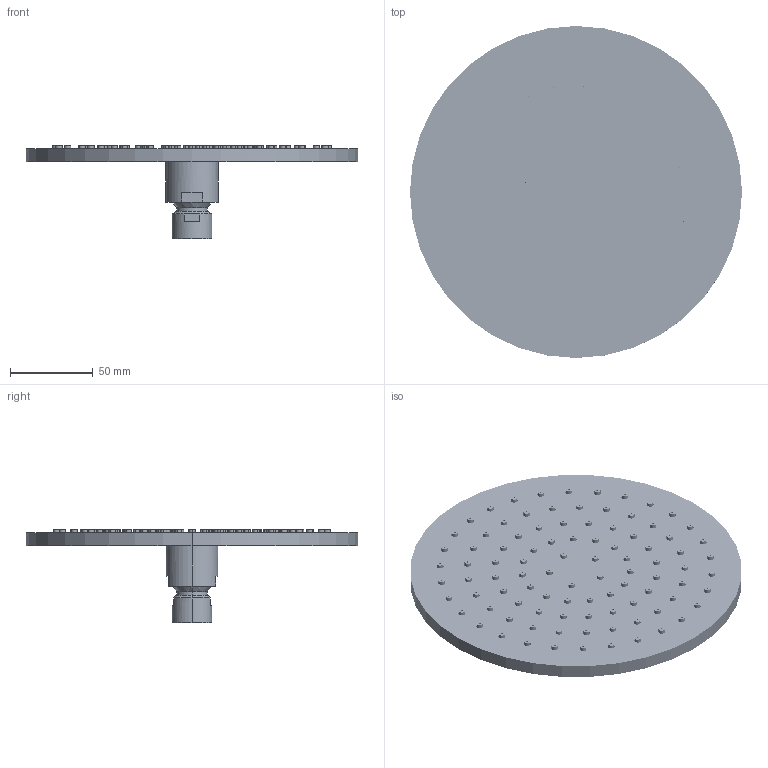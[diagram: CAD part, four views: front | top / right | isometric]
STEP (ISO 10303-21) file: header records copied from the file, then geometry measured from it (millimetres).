
FILE_DESCRIPTION(/* description */ (''),/* implementation_level */ '2;1');
FILE_NAME(/* name */ 'F2947_2',/* time_stamp */ '2025-04-04T17:25:11+02:00',/* author */ (''),/* organization */ (''),/* preprocessor_version */ 'ST-DEVELOPER v19.2',/* originating_system */ 'Rhino 8.1',/* authorisation */ '');
FILE_SCHEMA (('CONFIG_CONTROL_DESIGN'));
Length unit declared in the file: centimetre
Products named in the file (1): Document
Bounding box: 201 x 201 x 56.61 mm (x, y, z)
Surface area: 138897.2 mm2
Topology: 2 solids, 3 shells, 2082 faces, 4988 edges, 3061 vertices
Faces by surface type: bspline 921, cylinder 731, plane 430
Entity records: 134304 total; most frequent: CARTESIAN_POINT 90847, ORIENTED_EDGE 9936, DIRECTION 5835, EDGE_CURVE 4984, AXIS2_PLACEMENT_3D 3498, VERTEX_POINT 3061, EDGE_LOOP 2653, B_SPLINE_CURVE_WITH_KNOTS 2647
